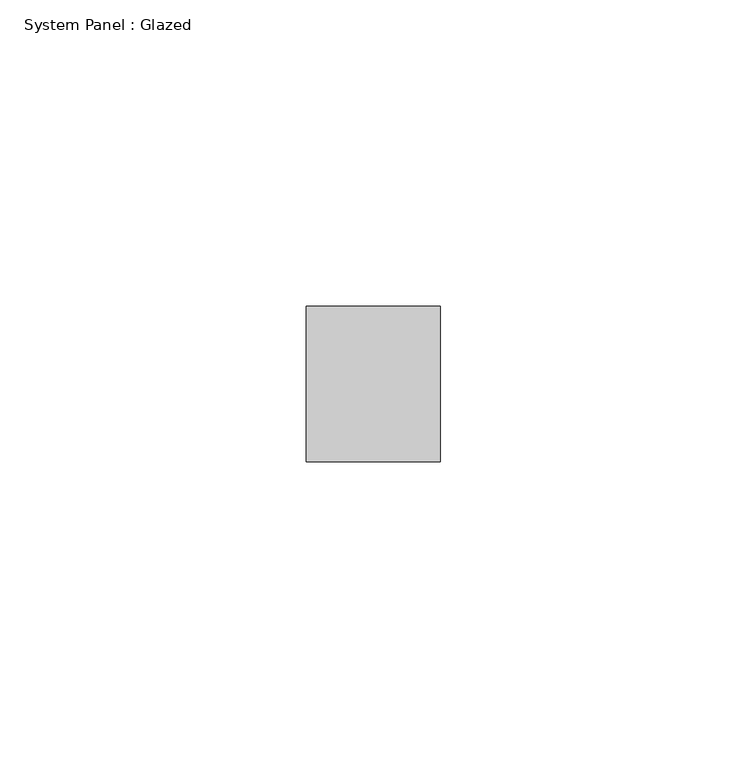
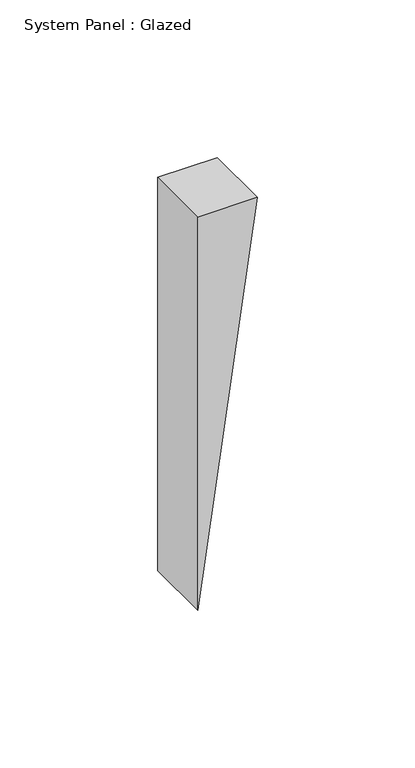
"""IFC4 building model written with IfcOpenShell, lengths in millimetres: plate geometry, System Panel : Glazed."""

from ifc_helpers import new_model, si_unit, frame, origin, place, context, project, spatial, polyline, outline, extrude, source, transform, mapped, element, save


def system_panel_glazed_ebc40959(model_context):
    return source(origin(), model_context, "Body", "SweptSolid", [
        extrude(outline(polyline([(152.3999979, -10.9640286), (0.0, -10.9640286), (152.3999979, 10.9640286), (152.3999979, -10.9640286)])), frame((0.0, 19.05, 0.0), z_axis=(0.0, 1.0, 0.0), x_axis=(0.0, 0.0, 1.0)), (0.0, 0.0, 1.0), 25.4),
    ])


if __name__ == "__main__":
    model = new_model("IFC4")
    model_context = context("Model", 3, world=origin())
    ifc_project = project(units=[si_unit("LENGTHUNIT", "METRE", prefix="MILLI")], contexts=[model_context])
    site = spatial("IfcSite", under=ifc_project)
    building = spatial("IfcBuilding", under=site)
    placement = place(None, origin())
    system_panel_glazed_shape = system_panel_glazed_ebc40959(model_context)
    element("IfcPlate", 1, ObjectType="System Panel : Glazed", at=placement, inside=building, context=model_context, shape_type="MappedRepresentation", body=[
        mapped(system_panel_glazed_shape, transform((0.0, 0.0, 0.0), x_axis=(1.0, 0.0, 0.0), y_axis=(0.0, 1.0, 0.0), z_axis=(0.0, 0.0, 1.0))),
    ])
    save(model, "model.ifc")
